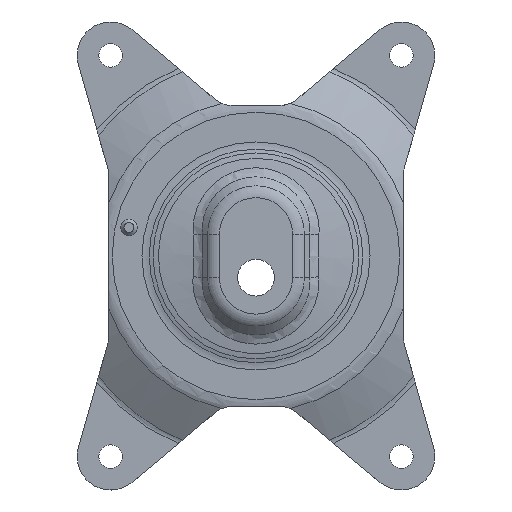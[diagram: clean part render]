
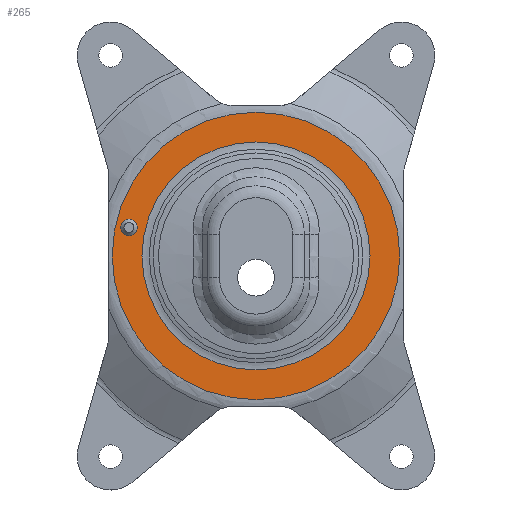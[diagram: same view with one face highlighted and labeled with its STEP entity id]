
A CAD part, top view. The second image highlights one B-rep face of the part: STEP entity #265.
In plain terms, the highlighted planar face has unit normal (0, 0, 1).
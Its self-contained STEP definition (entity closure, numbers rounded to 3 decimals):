
#265=ADVANCED_FACE('',(#499,#500,#501),#350,.T.);
#350=PLANE('',#1609);
#499=FACE_BOUND('',#565,.T.);
#500=FACE_BOUND('',#566,.T.);
#501=FACE_BOUND('',#567,.T.);
#565=EDGE_LOOP('',(#737));
#566=EDGE_LOOP('',(#738));
#567=EDGE_LOOP('',(#739));
#737=ORIENTED_EDGE('',*,*,#1328,.F.);
#738=ORIENTED_EDGE('',*,*,#1329,.T.);
#739=ORIENTED_EDGE('',*,*,#1330,.T.);
#1171=VERTEX_POINT('',#2373);
#1172=VERTEX_POINT('',#2375);
#1173=VERTEX_POINT('',#2377);
#1328=EDGE_CURVE('',#1171,#1171,#1513,.T.);
#1329=EDGE_CURVE('',#1172,#1172,#1514,.T.);
#1330=EDGE_CURVE('',#1173,#1173,#1515,.T.);
#1513=CIRCLE('',#1606,2.5);
#1514=CIRCLE('',#1607,34.108);
#1515=CIRCLE('',#1608,43.);
#1606=AXIS2_PLACEMENT_3D('',#2372,#1817,#1818);
#1607=AXIS2_PLACEMENT_3D('',#2374,#1819,#1820);
#1608=AXIS2_PLACEMENT_3D('',#2376,#1821,#1822);
#1609=AXIS2_PLACEMENT_3D('',#2378,#1823,#1824);
#1817=DIRECTION('',(0.,0.,1.));
#1818=DIRECTION('',(1.,0.,0.));
#1819=DIRECTION('',(0.,0.,-1.));
#1820=DIRECTION('',(1.,0.,0.));
#1821=DIRECTION('',(0.,0.,1.));
#1822=DIRECTION('',(1.,0.,0.));
#1823=DIRECTION('',(0.,0.,1.));
#1824=DIRECTION('',(1.,0.,0.));
#2372=CARTESIAN_POINT('',(-38.,8.5,12.5));
#2373=CARTESIAN_POINT('',(-35.5,8.5,12.5));
#2374=CARTESIAN_POINT('',(0.,0.,12.5));
#2375=CARTESIAN_POINT('',(34.108,0.,12.5));
#2376=CARTESIAN_POINT('',(0.,0.,12.5));
#2377=CARTESIAN_POINT('',(43.,0.,12.5));
#2378=CARTESIAN_POINT('',(45.,0.,12.5));
